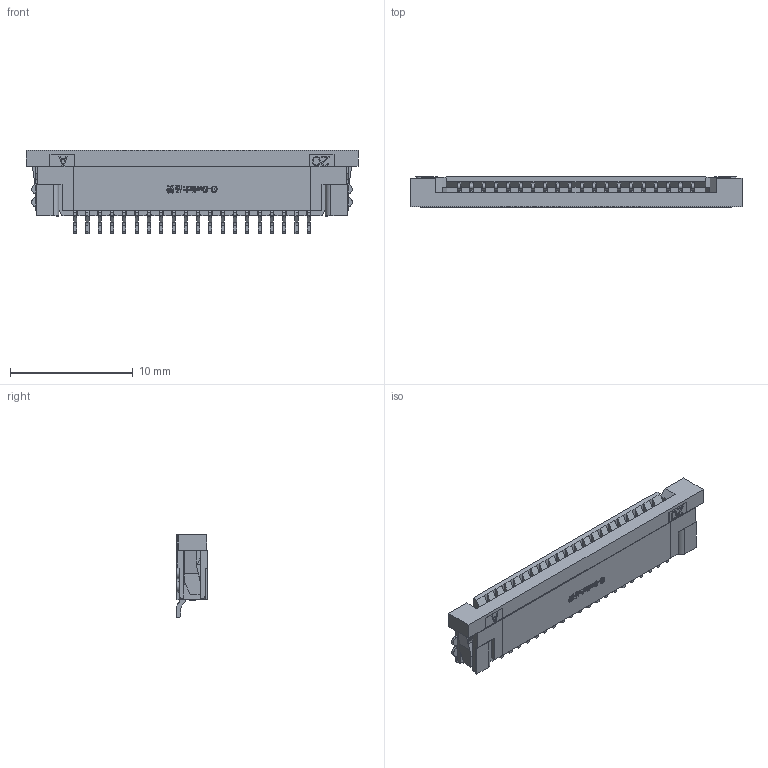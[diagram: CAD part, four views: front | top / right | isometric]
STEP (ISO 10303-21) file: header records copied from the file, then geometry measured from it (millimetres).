
FILE_DESCRIPTION (( 'STEP AP203' ), '1' );
FILE_NAME ('GT-F1001SR25-XXSBT02.STEP', '2023-12-27T08:11:43', ( 'Microsoft' ), ( 'Microsoft' ), 'SwSTEP 2.0', 'SolidWorks 2023', '' );
FILE_SCHEMA (( 'CONFIG_CONTROL_DESIGN' ));
Products named in the file (1): GT-F1001SR25-XXSBT02
Bounding box: 27 x 2.58 x 6.75 mm (x, y, z)
Volume: 261.6 mm3; surface area: 1213 mm2
Topology: 1 solids, 1 shells, 2144 faces, 6475 edges, 4214 vertices
Faces by surface type: plane 1392, cylinder 662, bspline 82, torus 8
Entity records: 76428 total; most frequent: CARTESIAN_POINT 17524, ORIENTED_EDGE 12950, DIRECTION 11681, EDGE_CURVE 6475, VECTOR 4867, LINE 4867, VERTEX_POINT 4214, AXIS2_PLACEMENT_3D 3407
